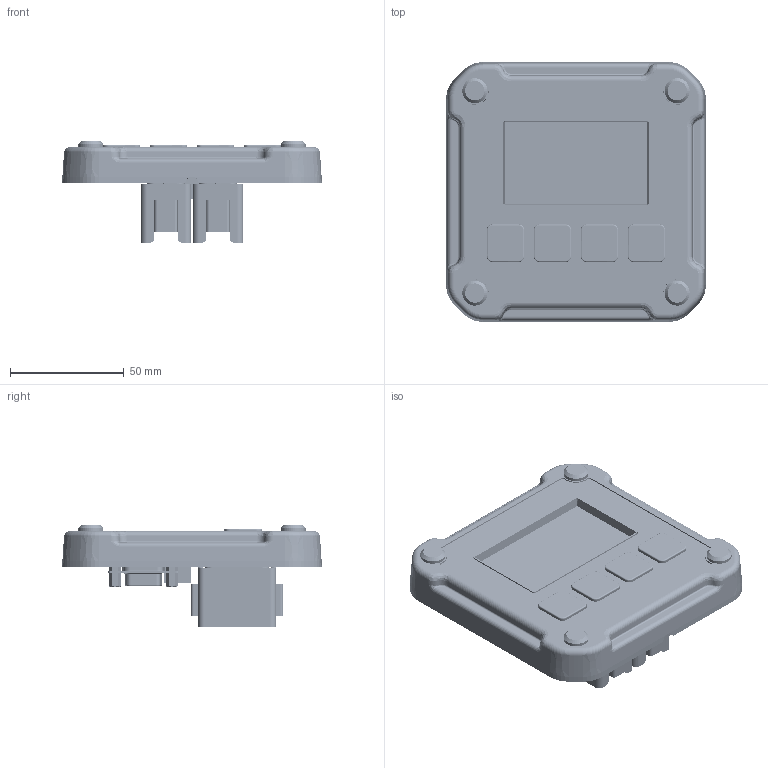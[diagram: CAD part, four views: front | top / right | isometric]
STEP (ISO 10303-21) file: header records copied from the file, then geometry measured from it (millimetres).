
FILE_DESCRIPTION(/* description */ (''),/* implementation_level */ '2;1');
FILE_NAME(/* name */ '4 BUTTON LDC CUSTOMER MODEL.step',/* time_stamp */ '2026-05-29T08:44:28-04:00',/* author */ (''),/* organization */ (''),/* preprocessor_version */ 'ST-DEVELOPER v20.1',/* originating_system */ 'Autodesk Translation Framework v15.8.0.0',/* authorisation */ '');
FILE_SCHEMA (('AUTOMOTIVE_DESIGN { 1 0 10303 214 3 1 1 }'));
Products named in the file (12): 4 BUTTON LDC CUSTOMER MODEL; THREADED NUT; THREADED NUT (1); THREADED NUT (2); THREADED NUT (3);  ENCLOSURE TOP; PCB; DISPLAY; ENCLOSURE SCREWS; POTTING COMPOUND; 4 BUTTON LDC OVERLAY v1; 2673 4 BUTTON KEYPAD
Assembly tree (11 placements, depth 2):
  4 BUTTON LDC CUSTOMER MODEL
    THREADED NUT
    THREADED NUT (1)
    THREADED NUT (2)
    THREADED NUT (3)
     ENCLOSURE TOP
    PCB
    DISPLAY
    ENCLOSURE SCREWS
    POTTING COMPOUND
    4 BUTTON LDC OVERLAY v1
    2673 4 BUTTON KEYPAD
Bounding box: 114.12 x 114.12 x 44.5 mm (x, y, z)
Volume: 140594.3 mm3; surface area: 145027.7 mm2
Topology: 85 solids, 85 shells, 4618 faces, 12258 edges, 7946 vertices
Faces by surface type: plane 1351, bspline 1323, cylinder 1160, cone 592, torus 136, sphere 56
Full cylindrical faces by diameter (mm): 0.15 x15, 0.508 x3, 0.55 x15, 1.1 x17, 1.15 x18, 1.3 x15, 1.5 x39, 1.58 x24, 1.7 x24, 1.9 x2, 1.935 x40, 2.5 x20, 2.6 x24, 2.61 x14, 3 x18, 3.1 x2, 3.175 x8, 3.3 x4, 3.44 x2, 3.84 x4, 3.9 x2, 4.44 x2, 4.826 x36, 5.563 x8, 5.994 x4, 10.998 x4, 11.903 x1, 11.957 x1, 12.039 x1, 12.118 x1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
Entity records: 270208 total; most frequent: CARTESIAN_POINT 165024, ORIENTED_EDGE 24396, DIRECTION 17887, EDGE_CURVE 12198, VERTEX_POINT 7946, AXIS2_PLACEMENT_3D 6702, EDGE_LOOP 5066, FACE_OUTER_BOUND 4618
